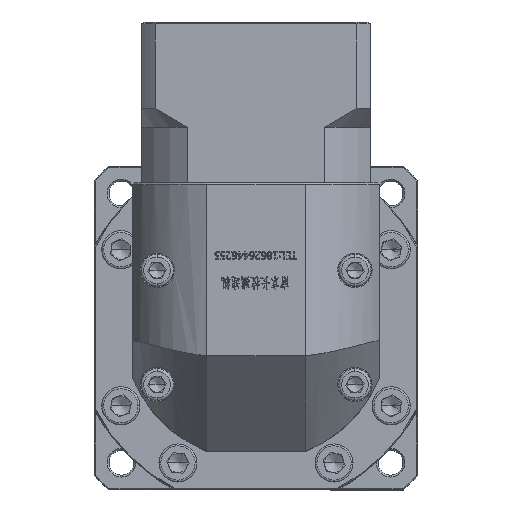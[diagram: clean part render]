
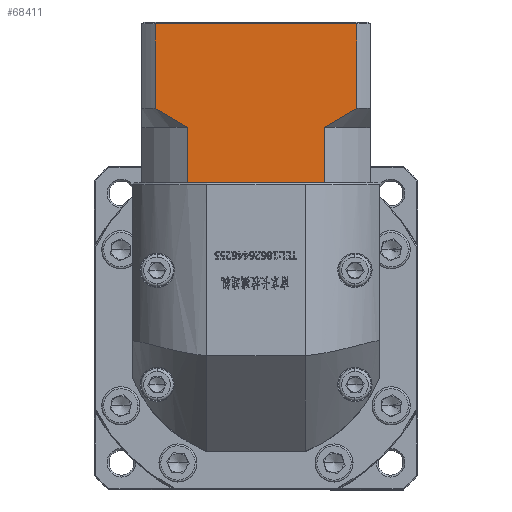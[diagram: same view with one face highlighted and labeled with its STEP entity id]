
A CAD part, top view. The second image highlights one B-rep face of the part: STEP entity #68411.
In plain terms, the highlighted planar face has unit normal (0, 0, 1).
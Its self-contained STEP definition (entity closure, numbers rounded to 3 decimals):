
#787 = VERTEX_POINT ( 'NONE', #57946 ) ;
#2021 = EDGE_CURVE ( 'NONE', #124724, #56607, #12502, .T. ) ;
#5273 = PLANE ( 'NONE',  #110208 ) ;
#5295 = VECTOR ( 'NONE', #5739, 1000. ) ;
#5739 = DIRECTION ( 'NONE',  ( 0., -1., 0. ) ) ;
#12023 = CARTESIAN_POINT ( 'NONE',  ( 40.253, 149.765, 71.211 ) ) ;
#12502 = LINE ( 'NONE', #32437, #83785 ) ;
#12860 = CARTESIAN_POINT ( 'NONE',  ( 41.616, 172.866, 71.211 ) ) ;
#13926 = CARTESIAN_POINT ( 'NONE',  ( 41.616, 150.666, 71.211 ) ) ;
#17122 = ORIENTED_EDGE ( 'NONE', *, *, #170109, .F. ) ;
#18316 = VECTOR ( 'NONE', #119091, 1000. ) ;
#20056 = CARTESIAN_POINT ( 'NONE',  ( 32.195, 131.166, 71.211 ) ) ;
#20131 = CARTESIAN_POINT ( 'NONE',  ( -14.842, 131.166, 71.211 ) ) ;
#20729 = DIRECTION ( 'NONE',  ( 1., 0., 0. ) ) ;
#25058 = VECTOR ( 'NONE', #77491, 1000. ) ;
#26559 = VECTOR ( 'NONE', #146702, 1000. ) ;
#26938 = VECTOR ( 'NONE', #20729, 1000. ) ;
#31784 = DIRECTION ( 'NONE',  ( 0., 1., 0. ) ) ;
#32437 = CARTESIAN_POINT ( 'NONE',  ( -14.842, 131.166, 71.211 ) ) ;
#35996 = ORIENTED_EDGE ( 'NONE', *, *, #139226, .F. ) ;
#37987 = EDGE_CURVE ( 'NONE', #50534, #107298, #112137, .T. ) ;
#39753 = EDGE_CURVE ( 'NONE', #56607, #144243, #164922, .T. ) ;
#43201 = VERTEX_POINT ( 'NONE', #74021 ) ;
#44361 = FACE_OUTER_BOUND ( 'NONE', #165256, .T. ) ;
#48364 = B_SPLINE_CURVE_WITH_KNOTS ( 'NONE', 3,
 ( #123775, #137124, #56997, #150519, #70502, #164009 ),
 .UNSPECIFIED., .F., .F.,
 ( 4, 2, 4 ),
 ( 0.052, 0.057, 0.062 ),
 .UNSPECIFIED. ) ;
#50012 = VERTEX_POINT ( 'NONE', #70469 ) ;
#50534 = VERTEX_POINT ( 'NONE', #12860 ) ;
#52148 = ORIENTED_EDGE ( 'NONE', *, *, #58345, .T. ) ;
#56607 = VERTEX_POINT ( 'NONE', #20056 ) ;
#56997 = CARTESIAN_POINT ( 'NONE',  ( -8.561, 148.893, 71.211 ) ) ;
#57061 = ORIENTED_EDGE ( 'NONE', *, *, #37987, .F. ) ;
#57946 = CARTESIAN_POINT ( 'NONE',  ( -2.87, 145.666, 71.211 ) ) ;
#58345 = EDGE_CURVE ( 'NONE', #50012, #787, #48364, .T. ) ;
#59161 = DIRECTION ( 'NONE',  ( 0., 0., -1. ) ) ;
#59433 = DIRECTION ( 'NONE',  ( 1., 0., 0. ) ) ;
#63966 = CARTESIAN_POINT ( 'NONE',  ( 33.186, 145.666, 71.211 ) ) ;
#65194 = CARTESIAN_POINT ( 'NONE',  ( -14.842, 131.166, 71.211 ) ) ;
#66444 = EDGE_CURVE ( 'NONE', #135614, #124724, #165109, .T. ) ;
#68411 = ADVANCED_FACE ( 'NONE', ( #44361 ), #5273, .F. ) ;
#70469 = CARTESIAN_POINT ( 'NONE',  ( -11.299, 150.666, 71.211 ) ) ;
#70502 = CARTESIAN_POINT ( 'NONE',  ( -4.322, 146.414, 71.211 ) ) ;
#71344 = CARTESIAN_POINT ( 'NONE',  ( -1.879, 131.166, 71.211 ) ) ;
#74021 = CARTESIAN_POINT ( 'NONE',  ( 33.186, 145.666, 71.211 ) ) ;
#76914 = LINE ( 'NONE', #84583, #108223 ) ;
#77491 = DIRECTION ( 'NONE',  ( 0., -1., 0. ) ) ;
#79545 = EDGE_CURVE ( 'NONE', #43201, #107298, #173370, .T. ) ;
#81360 = ORIENTED_EDGE ( 'NONE', *, *, #79545, .T. ) ;
#82629 = ORIENTED_EDGE ( 'NONE', *, *, #66444, .T. ) ;
#83785 = VECTOR ( 'NONE', #59433, 1000. ) ;
#84583 = CARTESIAN_POINT ( 'NONE',  ( -2.87, 145.666, 71.211 ) ) ;
#85982 = CARTESIAN_POINT ( 'NONE',  ( 33.186, 131.166, 71.211 ) ) ;
#86719 = EDGE_CURVE ( 'NONE', #43201, #144243, #131882, .T. ) ;
#87718 = VECTOR ( 'NONE', #117876, 1000. ) ;
#89595 = CARTESIAN_POINT ( 'NONE',  ( -11.299, 172.866, 71.211 ) ) ;
#91604 = CARTESIAN_POINT ( 'NONE',  ( -2.87, 131.166, 71.211 ) ) ;
#91922 = LINE ( 'NONE', #131271, #87718 ) ;
#92292 = CARTESIAN_POINT ( 'NONE',  ( 38.873, 148.891, 71.211 ) ) ;
#100634 = ORIENTED_EDGE ( 'NONE', *, *, #39753, .T. ) ;
#105140 = CARTESIAN_POINT ( 'NONE',  ( 33.186, 145.666, 71.211 ) ) ;
#105712 = CARTESIAN_POINT ( 'NONE',  ( 41.616, 150.666, 71.211 ) ) ;
#105796 = CARTESIAN_POINT ( 'NONE',  ( -14.842, 172.866, 71.211 ) ) ;
#107298 = VERTEX_POINT ( 'NONE', #13926 ) ;
#108223 = VECTOR ( 'NONE', #31784, 1000. ) ;
#110208 = AXIS2_PLACEMENT_3D ( 'NONE', #139329, #59161, #152701 ) ;
#112137 = LINE ( 'NONE', #152602, #5295 ) ;
#117876 = DIRECTION ( 'NONE',  ( 0., 1., 0. ) ) ;
#118656 = CARTESIAN_POINT ( 'NONE',  ( 34.642, 146.416, 71.211 ) ) ;
#119091 = DIRECTION ( 'NONE',  ( 1., 0., 0. ) ) ;
#123775 = CARTESIAN_POINT ( 'NONE',  ( -11.299, 150.666, 71.211 ) ) ;
#124724 = VERTEX_POINT ( 'NONE', #71344 ) ;
#131271 = CARTESIAN_POINT ( 'NONE',  ( -11.299, 145.666, 71.211 ) ) ;
#131882 = LINE ( 'NONE', #63966, #25058 ) ;
#133395 = LINE ( 'NONE', #105796, #26559 ) ;
#135614 = VERTEX_POINT ( 'NONE', #91604 ) ;
#137124 = CARTESIAN_POINT ( 'NONE',  ( -9.939, 149.767, 71.211 ) ) ;
#139226 = EDGE_CURVE ( 'NONE', #50012, #173858, #91922, .T. ) ;
#139329 = CARTESIAN_POINT ( 'NONE',  ( -14.842, 173.366, 71.211 ) ) ;
#144243 = VERTEX_POINT ( 'NONE', #85982 ) ;
#146702 = DIRECTION ( 'NONE',  ( -1., 0., 0. ) ) ;
#150519 = CARTESIAN_POINT ( 'NONE',  ( -5.753, 147.218, 71.211 ) ) ;
#152602 = CARTESIAN_POINT ( 'NONE',  ( 41.616, 145.666, 71.211 ) ) ;
#152701 = DIRECTION ( 'NONE',  ( 0., 1., 0. ) ) ;
#153396 = ORIENTED_EDGE ( 'NONE', *, *, #2021, .T. ) ;
#160169 = ORIENTED_EDGE ( 'NONE', *, *, #165277, .T. ) ;
#164009 = CARTESIAN_POINT ( 'NONE',  ( -2.87, 145.666, 71.211 ) ) ;
#164922 = LINE ( 'NONE', #65194, #18316 ) ;
#165109 = LINE ( 'NONE', #20131, #26938 ) ;
#165256 = EDGE_LOOP ( 'NONE', ( #57061, #160169, #35996, #52148, #17122, #82629, #153396, #100634, #168269, #81360 ) ) ;
#165277 = EDGE_CURVE ( 'NONE', #50534, #173858, #133395, .T. ) ;
#168269 = ORIENTED_EDGE ( 'NONE', *, *, #86719, .F. ) ;
#170109 = EDGE_CURVE ( 'NONE', #135614, #787, #76914, .T. ) ;
#172423 = CARTESIAN_POINT ( 'NONE',  ( 36.068, 147.217, 71.211 ) ) ;
#173370 = B_SPLINE_CURVE_WITH_KNOTS ( 'NONE', 3,
 ( #105140, #118656, #172423, #92292, #12023, #105712 ),
 .UNSPECIFIED., .F., .F.,
 ( 4, 2, 4 ),
 ( 0.1, 0.104, 0.109 ),
 .UNSPECIFIED. ) ;
#173858 = VERTEX_POINT ( 'NONE', #89595 ) ;
